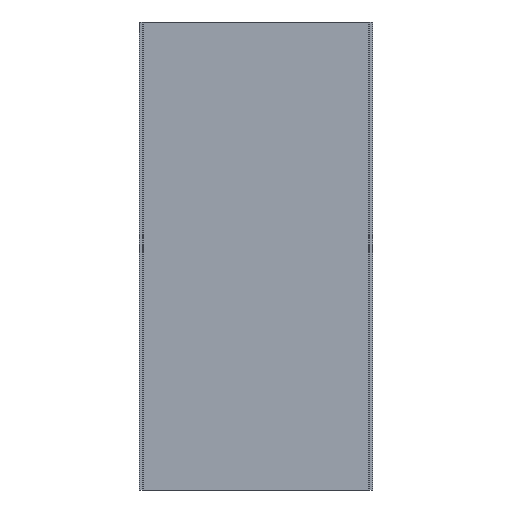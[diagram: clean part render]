
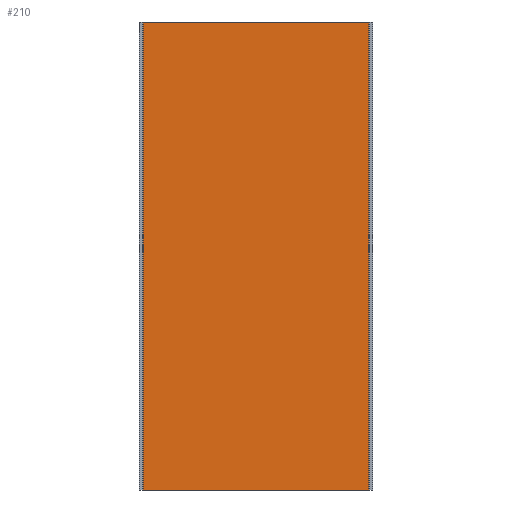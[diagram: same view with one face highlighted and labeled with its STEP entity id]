
A CAD part, front view. The second image highlights one B-rep face of the part: STEP entity #210.
In plain terms, the highlighted planar face has unit normal (0, -1, 0).
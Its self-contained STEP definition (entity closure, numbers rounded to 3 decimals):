
#63 = VERTEX_POINT ( 'NONE', #936 ) ;
#101 = DIRECTION ( 'NONE',  ( 1., 0., 0. ) ) ;
#117 = VECTOR ( 'NONE', #789, 1000. ) ;
#123 = DIRECTION ( 'NONE',  ( -1., 0., 0. ) ) ;
#157 = PLANE ( 'NONE',  #318 ) ;
#203 = VERTEX_POINT ( 'NONE', #361 ) ;
#210 = ADVANCED_FACE ( 'NONE', ( #215 ), #157, .F. ) ;
#215 = FACE_OUTER_BOUND ( 'NONE', #553, .T. ) ;
#266 = LINE ( 'NONE', #510, #975 ) ;
#269 = DIRECTION ( 'NONE',  ( 0., 1., 0. ) ) ;
#304 = DIRECTION ( 'NONE',  ( 0., 0., -1. ) ) ;
#318 = AXIS2_PLACEMENT_3D ( 'NONE', #1170, #269, #123 ) ;
#357 = CARTESIAN_POINT ( 'NONE',  ( -241.3, -68.25, 500. ) ) ;
#361 = CARTESIAN_POINT ( 'NONE',  ( 241.3, -68.25, -500. ) ) ;
#390 = CARTESIAN_POINT ( 'NONE',  ( -241.3, -68.25, 500. ) ) ;
#405 = ORIENTED_EDGE ( 'NONE', *, *, #429, .F. ) ;
#411 = ORIENTED_EDGE ( 'NONE', *, *, #1066, .F. ) ;
#412 = VERTEX_POINT ( 'NONE', #609 ) ;
#429 = EDGE_CURVE ( 'NONE', #63, #203, #1204, .T. ) ;
#510 = CARTESIAN_POINT ( 'NONE',  ( -241.3, -68.25, -500. ) ) ;
#553 = EDGE_LOOP ( 'NONE', ( #964, #405, #411, #857 ) ) ;
#609 = CARTESIAN_POINT ( 'NONE',  ( -241.3, -68.25, -500. ) ) ;
#633 = VERTEX_POINT ( 'NONE', #927 ) ;
#675 = DIRECTION ( 'NONE',  ( 1., 0., 0. ) ) ;
#700 = CARTESIAN_POINT ( 'NONE',  ( 241.3, -68.25, 500. ) ) ;
#789 = DIRECTION ( 'NONE',  ( 0., 0., -1. ) ) ;
#857 = ORIENTED_EDGE ( 'NONE', *, *, #979, .T. ) ;
#919 = LINE ( 'NONE', #390, #117 ) ;
#927 = CARTESIAN_POINT ( 'NONE',  ( -241.3, -68.25, 500. ) ) ;
#935 = VECTOR ( 'NONE', #675, 1000. ) ;
#936 = CARTESIAN_POINT ( 'NONE',  ( 241.3, -68.25, 500. ) ) ;
#964 = ORIENTED_EDGE ( 'NONE', *, *, #1284, .T. ) ;
#975 = VECTOR ( 'NONE', #101, 1000. ) ;
#979 = EDGE_CURVE ( 'NONE', #633, #412, #919, .T. ) ;
#1066 = EDGE_CURVE ( 'NONE', #633, #63, #1215, .T. ) ;
#1167 = VECTOR ( 'NONE', #304, 1000. ) ;
#1170 = CARTESIAN_POINT ( 'NONE',  ( -241.3, -68.25, 500. ) ) ;
#1204 = LINE ( 'NONE', #700, #1167 ) ;
#1215 = LINE ( 'NONE', #357, #935 ) ;
#1284 = EDGE_CURVE ( 'NONE', #412, #203, #266, .T. ) ;
